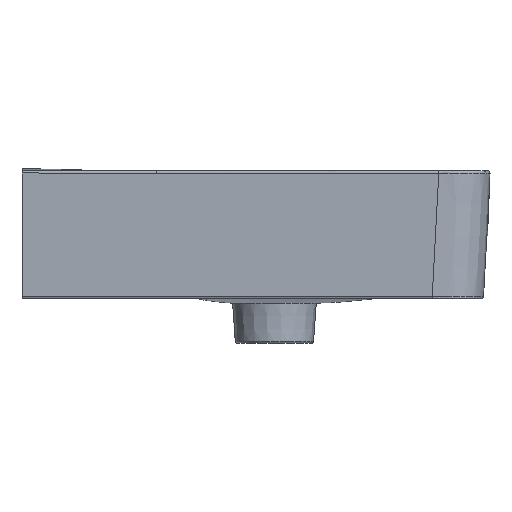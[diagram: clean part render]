
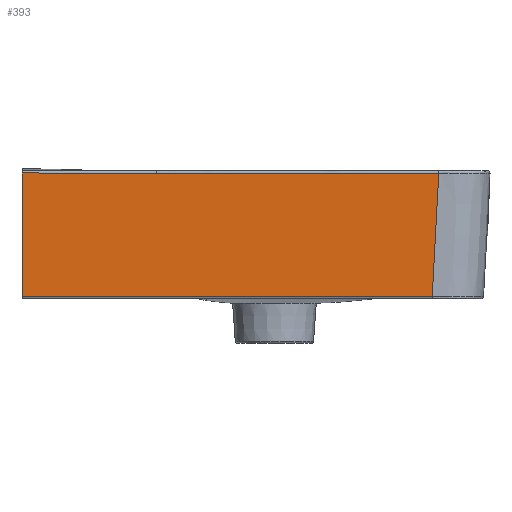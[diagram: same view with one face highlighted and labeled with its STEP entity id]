
A CAD part, front view. The second image highlights one B-rep face of the part: STEP entity #393.
In plain terms, the highlighted planar face has unit normal (0, -1, -0.023).
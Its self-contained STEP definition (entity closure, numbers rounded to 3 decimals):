
#318=CARTESIAN_POINT('Vertex',(141.589,-597.435,-3.045)) ;
#321=CARTESIAN_POINT('Line Origine',(-42.455,-597.435,-3.045)) ;
#325=CARTESIAN_POINT('Vertex',(-226.5,-597.435,-3.045)) ;
#340=CARTESIAN_POINT('Axis2P3D Location',(-266.791,-600.,110.)) ;
#346=CARTESIAN_POINT('Control Point',(-106.,-599.953,107.948)) ;
#347=CARTESIAN_POINT('Control Point',(-64.051,-599.953,107.938)) ;
#348=CARTESIAN_POINT('Control Point',(-22.099,-599.953,107.932)) ;
#349=CARTESIAN_POINT('Control Point',(19.845,-599.953,107.929)) ;
#350=CARTESIAN_POINT('Control Point',(70.52,-599.953,107.93)) ;
#351=CARTESIAN_POINT('Control Point',(121.198,-599.953,107.936)) ;
#352=CARTESIAN_POINT('Control Point',(129.952,-599.953,107.937)) ;
#353=CARTESIAN_POINT('Control Point',(138.706,-599.953,107.939)) ;
#354=CARTESIAN_POINT('Control Point',(147.46,-599.953,107.94)) ;
#355=CARTESIAN_POINT('Vertex',(-106.,-599.953,107.948)) ;
#357=CARTESIAN_POINT('Vertex',(147.46,-599.953,107.94)) ;
#361=CARTESIAN_POINT('Control Point',(-226.5,-599.954,107.968)) ;
#362=CARTESIAN_POINT('Control Point',(-202.4,-599.954,107.964)) ;
#363=CARTESIAN_POINT('Control Point',(-178.3,-599.954,107.96)) ;
#364=CARTESIAN_POINT('Control Point',(-154.2,-599.954,107.956)) ;
#365=CARTESIAN_POINT('Control Point',(-130.1,-599.954,107.952)) ;
#366=CARTESIAN_POINT('Control Point',(-106.,-599.953,107.948)) ;
#367=CARTESIAN_POINT('Vertex',(-226.5,-599.954,107.968)) ;
#370=CARTESIAN_POINT('Line Origine',(-226.5,-598.694,52.461)) ;
#376=CARTESIAN_POINT('Control Point',(147.46,-599.953,107.94)) ;
#377=CARTESIAN_POINT('Control Point',(146.89,-599.453,85.888)) ;
#378=CARTESIAN_POINT('Control Point',(146.025,-598.953,63.847)) ;
#379=CARTESIAN_POINT('Control Point',(144.865,-598.453,41.821)) ;
#380=CARTESIAN_POINT('Control Point',(143.397,-597.949,19.639)) ;
#381=CARTESIAN_POINT('Control Point',(141.631,-597.446,-2.525)) ;
#382=CARTESIAN_POINT('Control Point',(141.617,-597.443,-2.698)) ;
#383=CARTESIAN_POINT('Control Point',(141.603,-597.439,-2.872)) ;
#384=CARTESIAN_POINT('Control Point',(141.589,-597.435,-3.045)) ;
#322=DIRECTION('Vector Direction',(1.,0.,0.)) ;
#341=DIRECTION('Axis2P3D Direction',(-0.,1.,0.023)) ;
#342=DIRECTION('Axis2P3D XDirection',(1.,0.,0.)) ;
#371=DIRECTION('Vector Direction',(0.,0.023,-1.)) ;
#343=AXIS2_PLACEMENT_3D('Plane Axis2P3D',#340,#341,#342) ;
#387=ORIENTED_EDGE('',*,*,#359,.F.) ;
#388=ORIENTED_EDGE('',*,*,#369,.F.) ;
#389=ORIENTED_EDGE('',*,*,#374,.T.) ;
#390=ORIENTED_EDGE('',*,*,#327,.F.) ;
#391=ORIENTED_EDGE('',*,*,#385,.F.) ;
#323=VECTOR('Line Direction',#322,1.) ;
#372=VECTOR('Line Direction',#371,1.) ;
#393=ADVANCED_FACE('Hauptk\X2\00F6\X0\rper',(#392),#344,.F.) ;
#345=B_SPLINE_CURVE_WITH_KNOTS('',5,(#346,#347,#348,#349,#350,#351,#352,#353,#354),.UNSPECIFIED.,.F.,.U.,(6,3,6),(276.71,573.749,635.772),.UNSPECIFIED.) ;
#360=B_SPLINE_CURVE_WITH_KNOTS('',5,(#361,#362,#363,#364,#365,#366),.UNSPECIFIED.,.F.,.U.,(6,6),(105.796,276.223),.UNSPECIFIED.) ;
#375=B_SPLINE_CURVE_WITH_KNOTS('',5,(#376,#377,#378,#379,#380,#381,#382,#383,#384),.UNSPECIFIED.,.F.,.U.,(6,3,6),(35.51,193.266,194.511),.UNSPECIFIED.) ;
#327=EDGE_CURVE('',#319,#326,#324,.F.) ;
#359=EDGE_CURVE('',#356,#358,#345,.T.) ;
#369=EDGE_CURVE('',#368,#356,#360,.T.) ;
#374=EDGE_CURVE('',#368,#326,#373,.T.) ;
#385=EDGE_CURVE('',#358,#319,#375,.T.) ;
#386=EDGE_LOOP('',(#387,#388,#389,#390,#391)) ;
#392=FACE_OUTER_BOUND('',#386,.T.) ;
#324=LINE('Line',#321,#323) ;
#373=LINE('Line',#370,#372) ;
#344=PLANE('Plane',#343) ;
#319=VERTEX_POINT('',#318) ;
#326=VERTEX_POINT('',#325) ;
#356=VERTEX_POINT('',#355) ;
#358=VERTEX_POINT('',#357) ;
#368=VERTEX_POINT('',#367) ;
